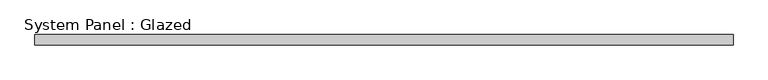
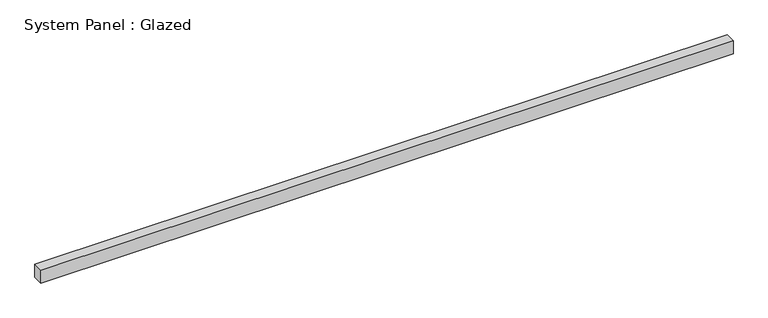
"""IFC4 building model written with IfcOpenShell, lengths in millimetres: plate geometry, System Panel : Glazed."""

from ifc_helpers import new_model, si_unit, origin, origin_with_axes, place, context, project, spatial, polyline, outline, extrude, source, transform, mapped, element, save


def system_panel_glazed_7ab80184(model_context):
    return source(origin(), model_context, "Body", "SweptSolid", [
        extrude(outline(polyline([(838.6, 24.5), (-838.6, 24.5), (-838.6, 49.5), (838.6, 49.5), (838.6, 24.5)])), origin_with_axes(), (0.0, 0.0, 1.0), 33.25),
    ])


if __name__ == "__main__":
    model = new_model("IFC4")
    model_context = context("Model", 3, world=origin())
    ifc_project = project(units=[si_unit("LENGTHUNIT", "METRE", prefix="MILLI")], contexts=[model_context])
    site = spatial("IfcSite", under=ifc_project)
    building = spatial("IfcBuilding", under=site)
    placement = place(None, origin())
    system_panel_glazed_shape = system_panel_glazed_7ab80184(model_context)
    element("IfcPlate", 1, ObjectType="System Panel : Glazed", at=placement, inside=building, context=model_context, shape_type="MappedRepresentation", body=[
        mapped(system_panel_glazed_shape, transform((0.0, 0.0, 0.0), x_axis=(1.0, 0.0, 0.0), y_axis=(0.0, 1.0, 0.0), z_axis=(0.0, 0.0, 1.0))),
    ])
    save(model, "model.ifc")
